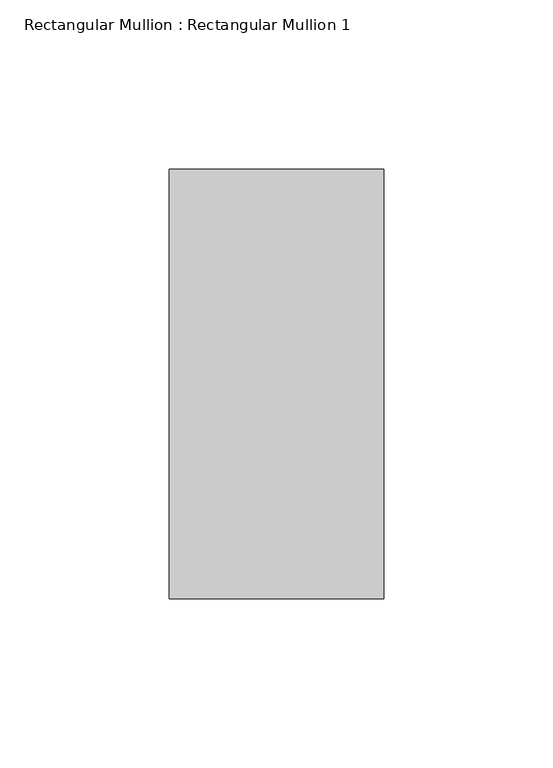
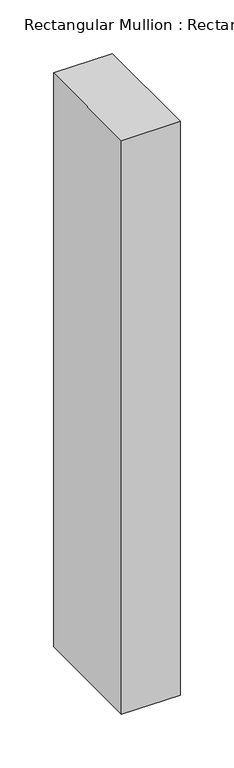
"""IFC4 building model written with IfcOpenShell, lengths in millimetres: member geometry, Rectangular Mullion : Rectangular Mullion 1."""

from ifc_helpers import new_model, si_unit, frame, origin, place, context, project, spatial, polyline, outline, extrude, source, transform, mapped, element, save


def rectangular_mullion_rectangular_mullion_1_152b513c(model_context):
    return source(origin(), model_context, "Body", "SweptSolid", [
        extrude(outline(polyline([(0.0, 63.5), (0.0, -63.5), (-63.5, -63.5), (-63.5, 63.5), (0.0, 63.5)])), frame((0.0, 0.0, -654.7500002), z_axis=(0.0, 0.0, 1.0), x_axis=(1.0, 0.0, 0.0)), (0.0, 0.0, 1.0), 654.7500002),
    ])


if __name__ == "__main__":
    model = new_model("IFC4")
    model_context = context("Model", 3, world=origin())
    ifc_project = project(units=[si_unit("LENGTHUNIT", "METRE", prefix="MILLI")], contexts=[model_context])
    site = spatial("IfcSite", under=ifc_project)
    building = spatial("IfcBuilding", under=site)
    placement = place(None, origin())
    rectangular_mullion_rectangular_mullion_1_shape = rectangular_mullion_rectangular_mullion_1_152b513c(model_context)
    element("IfcMember", 1, ObjectType="Rectangular Mullion : Rectangular Mullion 1", at=placement, inside=building, context=model_context, shape_type="MappedRepresentation", body=[
        mapped(rectangular_mullion_rectangular_mullion_1_shape, transform((0.0, 0.0, 0.0), x_axis=(1.0, 0.0, 0.0), y_axis=(0.0, 1.0, 0.0), z_axis=(0.0, 0.0, 1.0))),
    ])
    save(model, "model.ifc")
